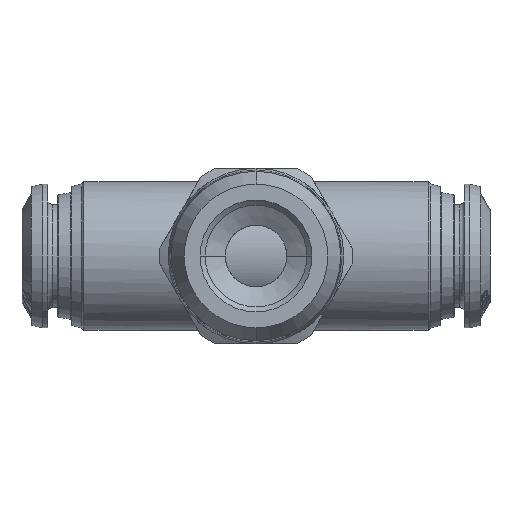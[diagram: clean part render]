
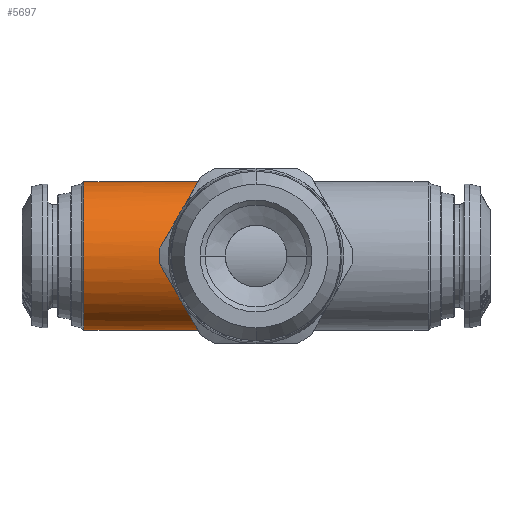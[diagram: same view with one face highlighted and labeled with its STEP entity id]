
A CAD part, front view. The second image highlights one B-rep face of the part: STEP entity #5697.
In plain terms, the highlighted cylindrical face has radius 7.25 mm (diameter 14.5 mm), a partial arc.
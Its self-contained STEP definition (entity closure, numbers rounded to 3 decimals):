
#754 = CARTESIAN_POINT ( 'NONE',  ( -4.836, -2.533, 6.714 ) ) ;
#755 = CARTESIAN_POINT ( 'NONE',  ( -7.653, -5.351, 5.567 ) ) ;
#760 = CARTESIAN_POINT ( 'NONE',  ( -9.351, -7.048, 3.042 ) ) ;
#761 = CARTESIAN_POINT ( 'NONE',  ( -9.351, -7.048, 0. ) ) ;
#914 = CARTESIAN_POINT ( 'NONE',  ( -6.415, 0.202, -7.25 ) ) ;
#915 = CARTESIAN_POINT ( 'NONE',  ( -6.413, 0.198, -7.25 ) ) ;
#916 = CARTESIAN_POINT ( 'NONE',  ( -4.836, -2.533, -6.714 ) ) ;
#2542 = ORIENTED_EDGE ( 'NONE', *, *, #16689, .F. ) ;
#2543 = ORIENTED_EDGE ( 'NONE', *, *, #17179, .F. ) ;
#2545 = ORIENTED_EDGE ( 'NONE', *, *, #17178, .F. ) ;
#2547 = ORIENTED_EDGE ( 'NONE', *, *, #16544, .F. ) ;
#2548 = ORIENTED_EDGE ( 'NONE', *, *, #20840, .F. ) ;
#2550 = ORIENTED_EDGE ( 'NONE', *, *, #16545, .F. ) ;
#2552 = ORIENTED_EDGE ( 'NONE', *, *, #16690, .T. ) ;
#2553 = ORIENTED_EDGE ( 'NONE', *, *, #16546, .T. ) ;
#2572 =( BOUNDED_CURVE ( )  B_SPLINE_CURVE ( 3, ( #754, #755, #760, #761 ),
 .UNSPECIFIED., .F., .T. ) 
 B_SPLINE_CURVE_WITH_KNOTS ( ( 4, 4 ),
 ( 5.099, 6.283 ),
 .UNSPECIFIED. ) 
 CURVE ( )  GEOMETRIC_REPRESENTATION_ITEM ( )  RATIONAL_B_SPLINE_CURVE ( ( 1., 0.887, 0.887, 1. ) ) 
 REPRESENTATION_ITEM ( '' )  );
#4258 = CIRCLE ( 'NONE', #23922, 7.25 ) ;
#4373 = LINE ( 'NONE', #10023, #4382 ) ;
#4377 = LINE ( 'NONE', #10015, #4384 ) ;
#4382 = VECTOR ( 'NONE', #10025, 1000. ) ;
#4384 = VECTOR ( 'NONE', #10026, 1000. ) ;
#5697 = ADVANCED_FACE ( 'NONE', ( #26854 ), #26861, .T. ) ;
#6755 = CARTESIAN_POINT ( 'NONE',  ( -5.082, -2.107, -6.888 ) ) ;
#6756 = CARTESIAN_POINT ( 'NONE',  ( -4.836, -2.533, -6.714 ) ) ;
#6759 = CARTESIAN_POINT ( 'NONE',  ( -6.413, 0.198, -7.25 ) ) ;
#6761 = CARTESIAN_POINT ( 'NONE',  ( -6.414, 0.199, -7.25 ) ) ;
#6762 = CARTESIAN_POINT ( 'NONE',  ( -5.338, -1.664, -7.021 ) ) ;
#6763 = CARTESIAN_POINT ( 'NONE',  ( -5.866, -0.749, -7.203 ) ) ;
#6764 = CARTESIAN_POINT ( 'NONE',  ( -6.14, -0.275, -7.25 ) ) ;
#6765 = CARTESIAN_POINT ( 'NONE',  ( -6.413, 0.198, -7.25 ) ) ;
#6768 = CARTESIAN_POINT ( 'NONE',  ( -6.414, 0.2, -7.25 ) ) ;
#6769 = CARTESIAN_POINT ( 'NONE',  ( -6.415, 0.202, -7.25 ) ) ;
#7124 = EDGE_LOOP ( 'NONE', ( #2542, #2543, #2545, #2547, #2548, #2550, #2552, #2553 ) ) ;
#9039 = DIRECTION ( 'NONE',  ( -1., 0., 0. ) ) ;
#9041 = DIRECTION ( 'NONE',  ( 0., 0., 1. ) ) ;
#9043 = CARTESIAN_POINT ( 'NONE',  ( -21.101, 0.202, 0. ) ) ;
#10015 = CARTESIAN_POINT ( 'NONE',  ( -21.101, 0.202, 7.25 ) ) ;
#10023 = CARTESIAN_POINT ( 'NONE',  ( -21.101, 0.202, -7.25 ) ) ;
#10025 = DIRECTION ( 'NONE',  ( -1., 0., 0. ) ) ;
#10026 = DIRECTION ( 'NONE',  ( -1., 0., 0. ) ) ;
#11212 = B_SPLINE_CURVE_WITH_KNOTS ( 'NONE', 3,
 ( #6756, #6755, #6762, #6763, #6764, #6765 ),
 .UNSPECIFIED., .F., .F.,
 ( 4, 2, 4 ),
 ( 0., 0.493, 1. ),
 .UNSPECIFIED. ) ;
#11213 = B_SPLINE_CURVE_WITH_KNOTS ( 'NONE', 3,
 ( #6759, #6761, #6768, #6769 ),
 .UNSPECIFIED., .F., .F.,
 ( 4, 4 ),
 ( 0., 0.003 ),
 .UNSPECIFIED. ) ;
#11961 =( BOUNDED_CURVE ( )  B_SPLINE_CURVE ( 3, ( #23051, #23059, #23064, #23065 ),
 .UNSPECIFIED., .F., .F. ) 
 B_SPLINE_CURVE_WITH_KNOTS ( ( 4, 4 ),
 ( 0., 1.184 ),
 .UNSPECIFIED. ) 
 CURVE ( )  GEOMETRIC_REPRESENTATION_ITEM ( )  RATIONAL_B_SPLINE_CURVE ( ( 1., 0.887, 0.887, 1. ) ) 
 REPRESENTATION_ITEM ( '' )  );
#11962 = B_SPLINE_CURVE_WITH_KNOTS ( 'NONE', 3,
 ( #23066, #23060, #23067, #23068, #23069, #23070 ),
 .UNSPECIFIED., .F., .F.,
 ( 4, 2, 4 ),
 ( 0.52, 0.764, 1. ),
 .UNSPECIFIED. ) ;
#13223 = VERTEX_POINT ( 'NONE', #22751 ) ;
#13233 = VERTEX_POINT ( 'NONE', #22761 ) ;
#14603 = VERTEX_POINT ( 'NONE', #22767 ) ;
#14608 = VERTEX_POINT ( 'NONE', #22769 ) ;
#14660 = VERTEX_POINT ( 'NONE', #22810 ) ;
#16544 = EDGE_CURVE ( 'NONE', #14660, #24790, #11961, .T. ) ;
#16545 = EDGE_CURVE ( 'NONE', #14603, #14608, #11962, .T. ) ;
#16546 = EDGE_CURVE ( 'NONE', #13223, #13233, #4258, .T. ) ;
#16689 = EDGE_CURVE ( 'NONE', #24788, #13233, #4373, .T. ) ;
#16690 = EDGE_CURVE ( 'NONE', #14603, #13223, #4377, .T. ) ;
#17178 = EDGE_CURVE ( 'NONE', #24790, #24789, #11212, .T. ) ;
#17179 = EDGE_CURVE ( 'NONE', #24789, #24788, #11213, .T. ) ;
#20840 = EDGE_CURVE ( 'NONE', #14608, #14660, #2572, .T. ) ;
#21091 = AXIS2_PLACEMENT_3D ( 'NONE', #9043, #9039, #9041 ) ;
#22751 = CARTESIAN_POINT ( 'NONE',  ( -18.869, 0.202, 7.25 ) ) ;
#22761 = CARTESIAN_POINT ( 'NONE',  ( -18.869, 0.202, -7.25 ) ) ;
#22767 = CARTESIAN_POINT ( 'NONE',  ( -6.415, 0.202, 7.25 ) ) ;
#22769 = CARTESIAN_POINT ( 'NONE',  ( -4.836, -2.533, 6.714 ) ) ;
#22810 = CARTESIAN_POINT ( 'NONE',  ( -9.351, -7.048, 0. ) ) ;
#23051 = CARTESIAN_POINT ( 'NONE',  ( -9.351, -7.048, 0. ) ) ;
#23059 = CARTESIAN_POINT ( 'NONE',  ( -9.351, -7.048, -3.042 ) ) ;
#23060 = CARTESIAN_POINT ( 'NONE',  ( -6.141, -0.273, 7.25 ) ) ;
#23064 = CARTESIAN_POINT ( 'NONE',  ( -7.653, -5.351, -5.567 ) ) ;
#23065 = CARTESIAN_POINT ( 'NONE',  ( -4.836, -2.533, -6.714 ) ) ;
#23066 = CARTESIAN_POINT ( 'NONE',  ( -6.415, 0.202, 7.25 ) ) ;
#23067 = CARTESIAN_POINT ( 'NONE',  ( -5.867, -0.747, 7.203 ) ) ;
#23068 = CARTESIAN_POINT ( 'NONE',  ( -5.338, -1.664, 7.021 ) ) ;
#23069 = CARTESIAN_POINT ( 'NONE',  ( -5.082, -2.107, 6.888 ) ) ;
#23070 = CARTESIAN_POINT ( 'NONE',  ( -4.836, -2.533, 6.714 ) ) ;
#23072 = CARTESIAN_POINT ( 'NONE',  ( -18.869, 0.202, 0. ) ) ;
#23073 = DIRECTION ( 'NONE',  ( 1., 0., 0. ) ) ;
#23074 = DIRECTION ( 'NONE',  ( 0., 0., -1. ) ) ;
#23922 = AXIS2_PLACEMENT_3D ( 'NONE', #23072, #23073, #23074 ) ;
#24788 = VERTEX_POINT ( 'NONE', #914 ) ;
#24789 = VERTEX_POINT ( 'NONE', #915 ) ;
#24790 = VERTEX_POINT ( 'NONE', #916 ) ;
#26854 = FACE_OUTER_BOUND ( 'NONE', #7124, .T. ) ;
#26861 = CYLINDRICAL_SURFACE ( 'NONE', #21091, 7.25 ) ;
